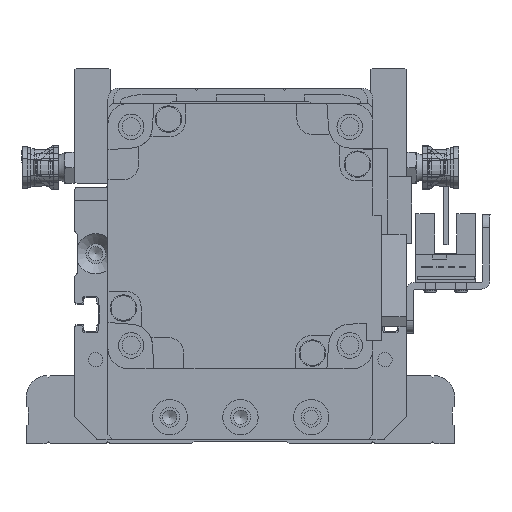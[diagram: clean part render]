
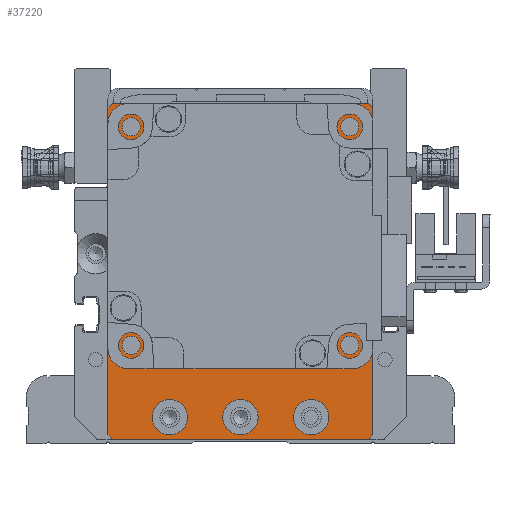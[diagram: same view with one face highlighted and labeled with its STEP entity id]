
A CAD part, front view. The second image highlights one B-rep face of the part: STEP entity #37220.
In plain terms, the highlighted planar face has unit normal (0, -1, 0) as drawn and (0, 0, 1) by its records, which use the part's own axes.
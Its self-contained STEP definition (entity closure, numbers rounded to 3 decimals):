
#1311=FACE_BOUND('',#7055,.T.);
#1312=FACE_BOUND('',#7056,.T.);
#1313=FACE_BOUND('',#7057,.T.);
#1314=FACE_BOUND('',#7058,.T.);
#1315=FACE_BOUND('',#7059,.T.);
#1316=FACE_BOUND('',#7060,.T.);
#1317=FACE_BOUND('',#7061,.T.);
#1318=FACE_BOUND('',#7062,.T.);
#2364=PLANE('',#41506);
#4771=FACE_OUTER_BOUND('',#7054,.T.);
#7054=EDGE_LOOP('',(#32922,#32923,#32924,#32925,#32926,#32927,#32928,#32929));
#7055=EDGE_LOOP('',(#32930));
#7056=EDGE_LOOP('',(#32931));
#7057=EDGE_LOOP('',(#32932));
#7058=EDGE_LOOP('',(#32933));
#7059=EDGE_LOOP('',(#32934));
#7060=EDGE_LOOP('',(#32935));
#7061=EDGE_LOOP('',(#32936));
#7062=EDGE_LOOP('',(#32937));
#9864=LINE('',#64471,#12790);
#9866=LINE('',#64475,#12792);
#9869=LINE('',#64481,#12795);
#9870=LINE('',#64483,#12796);
#9871=LINE('',#64485,#12797);
#9872=LINE('',#64487,#12798);
#9873=LINE('',#64489,#12799);
#9874=LINE('',#64490,#12800);
#12790=VECTOR('',#51009,10.);
#12792=VECTOR('',#51013,10.);
#12795=VECTOR('',#51018,10.);
#12796=VECTOR('',#51019,10.);
#12797=VECTOR('',#51020,10.);
#12798=VECTOR('',#51021,10.);
#12799=VECTOR('',#51022,10.);
#12800=VECTOR('',#51023,10.);
#15019=CIRCLE('',#41507,25.);
#15020=CIRCLE('',#41508,2.067);
#15021=CIRCLE('',#41509,2.067);
#15022=CIRCLE('',#41510,2.067);
#15023=CIRCLE('',#41511,2.067);
#15024=CIRCLE('',#41512,4.);
#15025=CIRCLE('',#41513,4.);
#15026=CIRCLE('',#41514,4.);
#18328=VERTEX_POINT('',#64468);
#18329=VERTEX_POINT('',#64470);
#18330=VERTEX_POINT('',#64474);
#18332=VERTEX_POINT('',#64480);
#18333=VERTEX_POINT('',#64482);
#18334=VERTEX_POINT('',#64484);
#18335=VERTEX_POINT('',#64486);
#18336=VERTEX_POINT('',#64488);
#18337=VERTEX_POINT('',#64491);
#18338=VERTEX_POINT('',#64493);
#18339=VERTEX_POINT('',#64495);
#18340=VERTEX_POINT('',#64497);
#18341=VERTEX_POINT('',#64499);
#18342=VERTEX_POINT('',#64501);
#18343=VERTEX_POINT('',#64503);
#18344=VERTEX_POINT('',#64505);
#23335=EDGE_CURVE('',#18329,#18328,#9864,.T.);
#23337=EDGE_CURVE('',#18329,#18330,#9866,.T.);
#23340=EDGE_CURVE('',#18332,#18328,#9869,.T.);
#23341=EDGE_CURVE('',#18332,#18333,#9870,.T.);
#23342=EDGE_CURVE('',#18334,#18333,#9871,.T.);
#23343=EDGE_CURVE('',#18334,#18335,#9872,.T.);
#23344=EDGE_CURVE('',#18336,#18335,#9873,.T.);
#23345=EDGE_CURVE('',#18336,#18330,#9874,.T.);
#23346=EDGE_CURVE('',#18337,#18337,#15019,.T.);
#23347=EDGE_CURVE('',#18338,#18338,#15020,.T.);
#23348=EDGE_CURVE('',#18339,#18339,#15021,.T.);
#23349=EDGE_CURVE('',#18340,#18340,#15022,.T.);
#23350=EDGE_CURVE('',#18341,#18341,#15023,.T.);
#23351=EDGE_CURVE('',#18342,#18342,#15024,.T.);
#23352=EDGE_CURVE('',#18343,#18343,#15025,.T.);
#23353=EDGE_CURVE('',#18344,#18344,#15026,.T.);
#32922=ORIENTED_EDGE('',*,*,#23337,.F.);
#32923=ORIENTED_EDGE('',*,*,#23335,.T.);
#32924=ORIENTED_EDGE('',*,*,#23340,.F.);
#32925=ORIENTED_EDGE('',*,*,#23341,.T.);
#32926=ORIENTED_EDGE('',*,*,#23342,.F.);
#32927=ORIENTED_EDGE('',*,*,#23343,.T.);
#32928=ORIENTED_EDGE('',*,*,#23344,.F.);
#32929=ORIENTED_EDGE('',*,*,#23345,.T.);
#32930=ORIENTED_EDGE('',*,*,#23346,.T.);
#32931=ORIENTED_EDGE('',*,*,#23347,.T.);
#32932=ORIENTED_EDGE('',*,*,#23348,.T.);
#32933=ORIENTED_EDGE('',*,*,#23349,.T.);
#32934=ORIENTED_EDGE('',*,*,#23350,.T.);
#32935=ORIENTED_EDGE('',*,*,#23351,.T.);
#32936=ORIENTED_EDGE('',*,*,#23352,.T.);
#32937=ORIENTED_EDGE('',*,*,#23353,.T.);
#37220=ADVANCED_FACE('',(#4771,#1311,#1312,#1313,#1314,#1315,#1316,#1317,
#1318),#2364,.T.);
#41506=AXIS2_PLACEMENT_3D('',#64479,#51016,#51017);
#41507=AXIS2_PLACEMENT_3D('',#64492,#51024,#51025);
#41508=AXIS2_PLACEMENT_3D('',#64494,#51026,#51027);
#41509=AXIS2_PLACEMENT_3D('',#64496,#51028,#51029);
#41510=AXIS2_PLACEMENT_3D('',#64498,#51030,#51031);
#41511=AXIS2_PLACEMENT_3D('',#64500,#51032,#51033);
#41512=AXIS2_PLACEMENT_3D('',#64502,#51034,#51035);
#41513=AXIS2_PLACEMENT_3D('',#64504,#51036,#51037);
#41514=AXIS2_PLACEMENT_3D('',#64506,#51038,#51039);
#51009=DIRECTION('',(1.,0.,0.));
#51013=DIRECTION('',(-0.707,0.707,0.));
#51016=DIRECTION('center_axis',(0.,0.,1.));
#51017=DIRECTION('ref_axis',(1.,0.,0.));
#51018=DIRECTION('',(-0.707,-0.707,0.));
#51019=DIRECTION('',(0.,1.,0.));
#51020=DIRECTION('',(0.707,-0.707,0.));
#51021=DIRECTION('',(-1.,0.,0.));
#51022=DIRECTION('',(0.707,0.707,0.));
#51023=DIRECTION('',(0.,-1.,0.));
#51024=DIRECTION('center_axis',(0.,0.,-1.));
#51025=DIRECTION('ref_axis',(1.,0.,0.));
#51026=DIRECTION('center_axis',(0.,0.,-1.));
#51027=DIRECTION('ref_axis',(1.,0.,0.));
#51028=DIRECTION('center_axis',(0.,0.,-1.));
#51029=DIRECTION('ref_axis',(1.,0.,0.));
#51030=DIRECTION('center_axis',(0.,0.,-1.));
#51031=DIRECTION('ref_axis',(1.,0.,0.));
#51032=DIRECTION('center_axis',(0.,0.,-1.));
#51033=DIRECTION('ref_axis',(1.,0.,0.));
#51034=DIRECTION('center_axis',(0.,0.,-1.));
#51035=DIRECTION('ref_axis',(1.,0.,0.));
#51036=DIRECTION('center_axis',(0.,0.,-1.));
#51037=DIRECTION('ref_axis',(1.,0.,0.));
#51038=DIRECTION('center_axis',(0.,0.,-1.));
#51039=DIRECTION('ref_axis',(1.,0.,0.));
#64468=CARTESIAN_POINT('',(29.,-38.,59.));
#64470=CARTESIAN_POINT('',(-29.,-38.,59.));
#64471=CARTESIAN_POINT('',(-30.,-38.,59.));
#64474=CARTESIAN_POINT('',(-30.,-37.,59.));
#64475=CARTESIAN_POINT('',(-31.5,-35.5,59.));
#64479=CARTESIAN_POINT('Origin',(0.,0.,
59.));
#64480=CARTESIAN_POINT('',(30.,-37.,59.));
#64481=CARTESIAN_POINT('',(31.5,-35.5,59.));
#64482=CARTESIAN_POINT('',(30.,37.,59.));
#64483=CARTESIAN_POINT('',(30.,-38.,59.));
#64484=CARTESIAN_POINT('',(29.,38.,59.));
#64485=CARTESIAN_POINT('',(31.5,35.5,59.));
#64486=CARTESIAN_POINT('',(-29.,38.,59.));
#64487=CARTESIAN_POINT('',(30.,38.,59.));
#64488=CARTESIAN_POINT('',(-30.,37.,59.));
#64489=CARTESIAN_POINT('',(-31.5,35.5,59.));
#64490=CARTESIAN_POINT('',(-30.,38.,59.));
#64491=CARTESIAN_POINT('',(-25.,8.,59.));
#64492=CARTESIAN_POINT('Origin',(0.,8.,59.));
#64493=CARTESIAN_POINT('',(22.682,-16.749,59.));
#64494=CARTESIAN_POINT('Origin',(24.749,-16.749,59.));
#64495=CARTESIAN_POINT('',(22.682,32.749,59.));
#64496=CARTESIAN_POINT('Origin',(24.749,32.749,59.));
#64497=CARTESIAN_POINT('',(-26.816,32.749,59.));
#64498=CARTESIAN_POINT('Origin',(-24.749,32.749,59.));
#64499=CARTESIAN_POINT('',(-26.816,-16.749,59.));
#64500=CARTESIAN_POINT('Origin',(-24.749,-16.749,59.));
#64501=CARTESIAN_POINT('',(12.,-33.,59.));
#64502=CARTESIAN_POINT('Origin',(16.,-33.,59.));
#64503=CARTESIAN_POINT('',(-4.,-33.,59.));
#64504=CARTESIAN_POINT('Origin',(0.,-33.,59.));
#64505=CARTESIAN_POINT('',(-20.,-33.,59.));
#64506=CARTESIAN_POINT('Origin',(-16.,-33.,59.));
